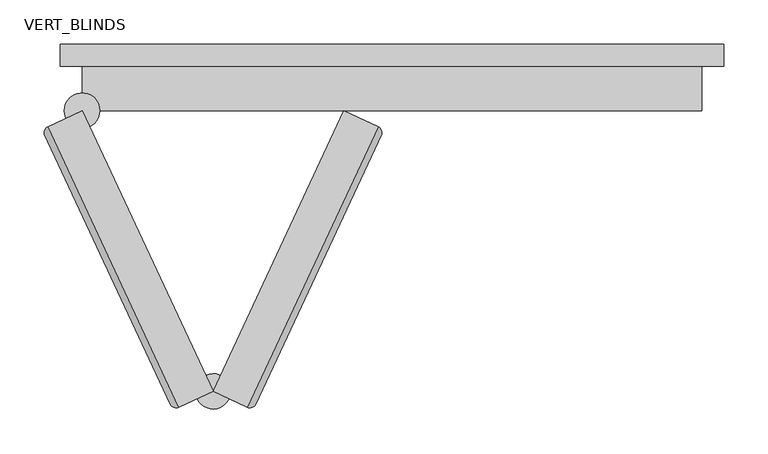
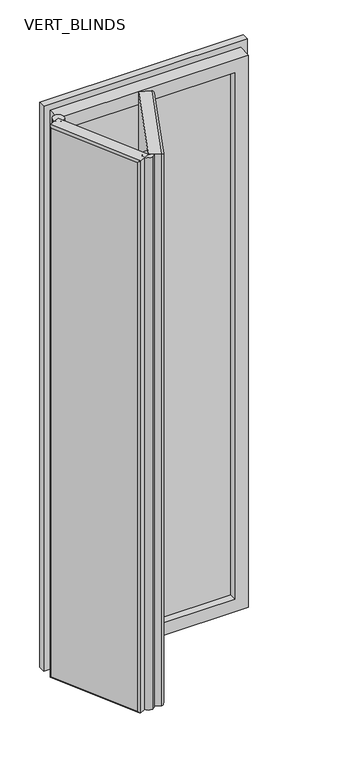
"""IFC4 building model written with IfcOpenShell, lengths in millimetres: plate geometry, CURTAIN PANEL VODA STYLE BIFOLDING : VERT_BLINDS."""

from ifc_helpers import new_model, si_unit, point, frame, frame_2d, origin, place, context, project, spatial, polyline, circle_curve, ellipse_curve, trimmed, segment, composite_curve, outline, extrude, faceted_brep, source, transform, mapped, element, save
from ifc_brep_helpers import plane_surface, cylinder_surface, advanced_brep


def vert_blinds_dede1d0d(model_context):
    return source(origin(), model_context, "Body", "SolidModel", [
        advanced_brep(
        [(-350.0, -50.0, 2175.0), (-388.5180809, -67.9612761, 2175.0), (-240.6016893, -385.1690016, 2175.0), (-202.0836084, -367.2077255, 2175.0), (-202.0836084, -367.2077255, 25.0), (-240.6016893, -385.1690016, 25.0), (-388.5180809, -67.9612761, 25.0), (-350.0, -50.0, 25.0), (-392.1457524, -77.9282215, 32.5), (-250.5686347, -381.5413301, 32.5), (-250.5686347, -381.5413301, 2167.5), (-392.1457524, -77.9282215, 2167.5)],
        [
            (0, 1),
            (1, 2),
            (2, 3),
            (3, 0),
            (4, 5),
            (5, 6),
            (6, 7),
            (7, 4),
            (2, 5),
            (4, 3),
            (8, 9),
            (9, 10),
            (10, 11),
            (11, 8),
            (6, 1),
            (0, 7),
            (11, 1, ellipse_curve(frame((-385.348444, -74.7585845, 2167.5), z_axis=(-0.2988362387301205, 0.6408563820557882, -0.7071067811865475), x_axis=(0.2988362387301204, -0.6408563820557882, -0.7071067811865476)), 10.6066017, 7.5)),
            (6, 8, ellipse_curve(frame((-385.348444, -74.7585845, 32.5), z_axis=(-0.29883623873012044, 0.6408563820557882, 0.7071067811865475), x_axis=(-0.29883623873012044, 0.640856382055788, -0.7071067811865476)), 10.6066017, 7.5)),
            (5, 9, ellipse_curve(frame((-243.7713263, -378.3716932, 32.5), z_axis=(-0.2988362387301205, 0.6408563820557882, -0.7071067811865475), x_axis=(0.29883623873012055, -0.6408563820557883, -0.7071067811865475)), 10.6066017, 7.5)),
            (2, 10, ellipse_curve(frame((-243.7713263, -378.3716932, 2167.5), z_axis=(0.2988362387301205, -0.6408563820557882, -0.7071067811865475), x_axis=(0.29883623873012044, -0.6408563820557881, 0.7071067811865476)), 10.6066017, 7.5)),
        ],
        [
            plane_surface(frame((-247.3989977, -388.3386385, 2175.0), z_axis=(0.0, 0.0, 1.0), x_axis=(-0.9063077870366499, -0.42261826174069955, 0.0))),
            plane_surface(frame((-247.3989977, -388.3386385, 25.0), z_axis=(0.0, 0.0, -1.0), x_axis=(0.9063077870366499, 0.42261826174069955, 0.0))),
            plane_surface(frame((-202.0836084, -367.2077255, 2175.0), z_axis=(0.42261826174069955, -0.9063077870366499, 0.0), x_axis=(0.0, 0.0, -1.0))),
            plane_surface(frame((-247.3989977, -388.3386385, 2175.0), z_axis=(-0.9063077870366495, -0.4226182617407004, 0.0), x_axis=(0.0, 0.0, -1.0))),
            plane_surface(frame((-395.3153894, -71.1309131, 2175.0), z_axis=(-0.4226182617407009, 0.9063077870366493, 0.0), x_axis=(0.0, 0.0, -1.0))),
            plane_surface(frame((-350.0, -50.0, 2175.0), z_axis=(0.9063077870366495, 0.4226182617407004, 0.0), x_axis=(0.0, 0.0, -1.0))),
            cylinder_surface(frame((-385.348444, -74.7585845, 2175.0), z_axis=(0.0, 0.0, -1.0), x_axis=(0.9063077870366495, 0.4226182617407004, 0.0)), 7.5),
            cylinder_surface(frame((-388.5180809, -67.9612761, 32.5), z_axis=(0.4226182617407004, -0.9063077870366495, 0.0), x_axis=(0.9063077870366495, 0.4226182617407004, 0.0)), 7.5),
            cylinder_surface(frame((-243.7713263, -378.3716932, 25.0), z_axis=(0.0, 0.0, 1.0), x_axis=(0.9063077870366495, 0.42261826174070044, 0.0)), 7.5),
            cylinder_surface(frame((-240.6016893, -385.1690016, 2167.5), z_axis=(-0.4226182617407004, 0.9063077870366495, 0.0), x_axis=(0.9063077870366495, 0.4226182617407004, 0.0)), 7.5),
        ],
        [
            (0, [[1, 2, 3, 4]]),
            (1, [[5, 6, 7, 8]]),
            (2, [[-3, 9, -5, 10]]),
            (3, [[11, 12, 13, 14]]),
            (4, [[-7, 15, -1, 16]]),
            (5, [[-10, -8, -16, -4]]),
            (6, [[-14, 17, -15, 18]]),
            (7, [[-6, 19, -11, -18]]),
            (8, [[-9, 20, -12, -19]]),
            (9, [[-13, -20, -2, -17]]),
        ],
    ),
        advanced_brep(
        [(-202.0836084, -367.2077255, 2175.0), (-163.5655274, -385.1690016, 2175.0), (-15.6491358, -67.9612761, 2175.0), (-54.1672168, -50.0, 2175.0), (-54.1672168, -50.0, 25.0), (-15.6491358, -67.9612761, 25.0), (-163.5655274, -385.1690016, 25.0), (-202.0836084, -367.2077255, 25.0), (-153.5985821, -381.5413301, 32.5), (-12.0214644, -77.9282215, 32.5), (-12.0214644, -77.9282215, 2167.5), (-153.5985821, -381.5413301, 2167.5)],
        [
            (0, 1),
            (1, 2),
            (2, 3),
            (3, 0),
            (4, 5),
            (5, 6),
            (6, 7),
            (7, 4),
            (2, 5),
            (4, 3),
            (8, 9),
            (9, 10),
            (10, 11),
            (11, 8),
            (6, 1),
            (0, 7),
            (11, 1, ellipse_curve(frame((-160.3958905, -378.3716932, 2167.5), z_axis=(-0.2988362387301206, -0.6408563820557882, -0.7071067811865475), x_axis=(0.2988362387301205, 0.6408563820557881, -0.7071067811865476)), 10.6066017, 7.5)),
            (6, 8, ellipse_curve(frame((-160.3958905, -378.3716932, 32.5), z_axis=(-0.2988362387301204, -0.6408563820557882, 0.7071067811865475), x_axis=(-0.2988362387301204, -0.6408563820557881, -0.7071067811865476)), 10.6066017, 7.5)),
            (5, 9, ellipse_curve(frame((-18.8187728, -74.7585845, 32.5), z_axis=(-0.2988362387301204, -0.6408563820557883, -0.7071067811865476), x_axis=(0.29883623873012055, 0.6408563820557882, -0.7071067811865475)), 10.6066017, 7.5)),
            (2, 10, ellipse_curve(frame((-18.8187728, -74.7585845, 2167.5), z_axis=(0.2988362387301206, 0.6408563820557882, -0.7071067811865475), x_axis=(0.2988362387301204, 0.6408563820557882, 0.7071067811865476)), 10.6066017, 7.5)),
        ],
        [
            plane_surface(frame((-8.8518274, -71.1309131, 2175.0), z_axis=(0.0, 0.0, 1.0), x_axis=(0.9063077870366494, -0.4226182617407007, 0.0))),
            plane_surface(frame((-8.8518274, -71.1309131, 25.0), z_axis=(0.0, 0.0, -1.0), x_axis=(-0.9063077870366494, 0.4226182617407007, 0.0))),
            plane_surface(frame((-54.1672168, -50.0, 2175.0), z_axis=(0.4226182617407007, 0.9063077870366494, 0.0), x_axis=(0.0, 0.0, -1.0))),
            plane_surface(frame((-8.8518274, -71.1309131, 2175.0), z_axis=(0.9063077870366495, -0.4226182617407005, 0.0), x_axis=(0.0, 0.0, -1.0))),
            plane_surface(frame((-156.768219, -388.3386385, 2175.0), z_axis=(-0.4226182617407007, -0.9063077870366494, 0.0), x_axis=(0.0, 0.0, -1.0))),
            plane_surface(frame((-202.0836084, -367.2077255, 2175.0), z_axis=(-0.9063077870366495, 0.4226182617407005, 0.0), x_axis=(0.0, 0.0, -1.0))),
            cylinder_surface(frame((-160.3958905, -378.3716932, 2175.0), z_axis=(0.0, 0.0, -1.0), x_axis=(-0.9063077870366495, 0.4226182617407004, 0.0)), 7.5),
            cylinder_surface(frame((-163.5655274, -385.1690016, 32.5), z_axis=(0.42261826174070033, 0.9063077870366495, 0.0), x_axis=(-0.9063077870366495, 0.42261826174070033, 0.0)), 7.5),
            cylinder_surface(frame((-18.8187728, -74.7585845, 25.0), z_axis=(0.0, 0.0, 1.0), x_axis=(-0.9063077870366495, 0.4226182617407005, 0.0)), 7.5),
            cylinder_surface(frame((-15.6491358, -67.9612761, 2167.5), z_axis=(-0.4226182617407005, -0.9063077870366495, 0.0), x_axis=(-0.9063077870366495, 0.4226182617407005, 0.0)), 7.5),
        ],
        [
            (0, [[1, 2, 3, 4]]),
            (1, [[5, 6, 7, 8]]),
            (2, [[-3, 9, -5, 10]]),
            (3, [[11, 12, 13, 14]]),
            (4, [[-7, 15, -1, 16]]),
            (5, [[-10, -8, -16, -4]]),
            (6, [[-14, 17, -15, 18]]),
            (7, [[-6, 19, -11, -18]]),
            (8, [[-9, 20, -12, -19]]),
            (9, [[-13, -20, -2, -17]]),
        ],
    ),
        extrude(outline(composite_curve([segment(trimmed(circle_curve(frame_2d((-350.0, -50.0)), 20.0), [point((-370.0, -50.0))], [point((-330.0, -50.0))], False, "CARTESIAN"), True, "CONTINUOUS"), segment(trimmed(circle_curve(frame_2d((-350.0, -50.0)), 20.0), [point((-330.0, -50.0))], [point((-370.0, -50.0))], False, "CARTESIAN"), True, "CONTINUOUS")], self_intersect=False)), frame((0.0, 0.0, 25.0), z_axis=(0.0, 0.0, 1.0), x_axis=(1.0, 0.0, 0.0)), (0.0, 0.0, 1.0), 2150.0),
        extrude(outline(composite_curve([segment(trimmed(circle_curve(frame_2d((-202.0836084, -367.2077255)), 20.0), [point((-210.5359736, -349.0815697))], [point((-193.6312432, -385.3338812))], False, "CARTESIAN"), True, "CONTINUOUS"), segment(trimmed(circle_curve(frame_2d((-202.0836084, -367.2077255)), 20.0), [point((-193.6312432, -385.3338812))], [point((-210.5359736, -349.0815697))], False, "CARTESIAN"), True, "CONTINUOUS")], self_intersect=False)), frame((0.0, 0.0, 25.0), z_axis=(0.0, 0.0, 1.0), x_axis=(1.0, 0.0, 0.0)), (0.0, 0.0, 1.0), 2150.0),
        extrude(outline(polyline([(-300.0, -24.0), (-300.0, 0.0), (300.0, 0.0), (300.0, -24.0), (-300.0, -24.0)])), frame((0.0, 0.0, 75.0), z_axis=(0.0, 0.0, 1.0), x_axis=(1.0, 0.0, 0.0)), (0.0, 0.0, 1.0), 2050.0),
        faceted_brep([(-300.0, -50.0, 2125.0), (-300.0, -50.0, 75.0), (-300.0, 25.0, 75.0), (-300.0, 25.0, 2125.0), (-375.0, 25.0, 2200.0), (-375.0, 25.0, 0.0), (-375.0, 0.0, 0.0), (-375.0, 0.0, 2200.0), (-350.0, 0.0, 2175.0), (-350.0, 0.0, 25.0), (-350.0, -50.0, 25.0), (-350.0, -50.0, 2175.0), (300.0, -50.0, 75.0), (300.0, 25.0, 75.0), (375.0, 25.0, 0.0), (375.0, 0.0, 0.0), (350.0, 0.0, 25.0), (350.0, -50.0, 25.0), (300.0, -50.0, 2125.0), (300.0, 25.0, 2125.0), (375.0, 25.0, 2200.0), (375.0, 0.0, 2200.0), (350.0, 0.0, 2175.0), (350.0, -50.0, 2175.0)], [[[0, 1, 2, 3]], [[4, 5, 6, 7]], [[8, 9, 10, 11]], [[1, 12, 13, 2]], [[5, 14, 15, 6]], [[9, 16, 17, 10]], [[12, 18, 19, 13]], [[14, 20, 21, 15]], [[16, 22, 23, 17]], [[11, 10, 17, 23], [1, 0, 18, 12]], [[18, 0, 3, 19]], [[5, 4, 20, 14], [3, 2, 13, 19]], [[20, 4, 7, 21]], [[7, 6, 15, 21], [9, 8, 22, 16]], [[22, 8, 11, 23]]]),
    ])


if __name__ == "__main__":
    model = new_model("IFC4")
    model_context = context("Model", 3, world=origin())
    ifc_project = project(units=[si_unit("LENGTHUNIT", "METRE", prefix="MILLI")], contexts=[model_context])
    site = spatial("IfcSite", under=ifc_project)
    building = spatial("IfcBuilding", under=site)
    placement = place(None, origin())
    vert_blinds_shape = vert_blinds_dede1d0d(model_context)
    element("IfcPlate", 1, ObjectType="CURTAIN PANEL VODA STYLE BIFOLDING : VERT_BLINDS", at=placement, inside=building, context=model_context, shape_type="MappedRepresentation", body=[
        mapped(vert_blinds_shape, transform((0.0, 0.0, 0.0), x_axis=(1.0, 0.0, 0.0), y_axis=(0.0, 1.0, 0.0), z_axis=(0.0, 0.0, 1.0))),
    ])
    save(model, "model.ifc")
